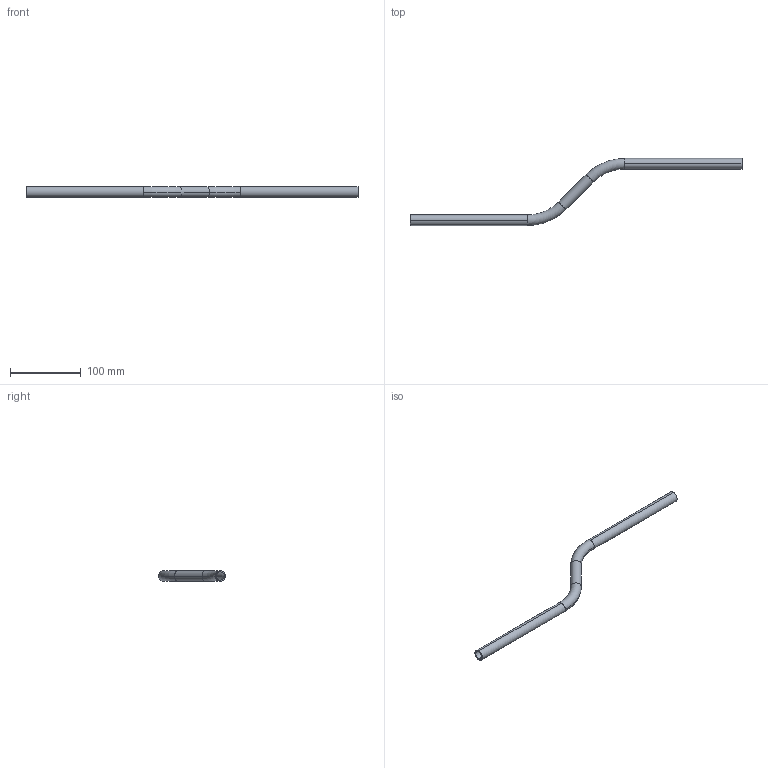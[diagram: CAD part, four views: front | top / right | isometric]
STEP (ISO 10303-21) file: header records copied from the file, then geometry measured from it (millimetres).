
FILE_DESCRIPTION (( 'STEP AP203' ), '1' );
FILE_NAME ('059.015.103.STEP', '2016-10-19T13:11:22', ( 'Utente' ), ( '' ), 'SwSTEP 2.0', 'SolidWorks 2016', '' );
FILE_SCHEMA (( 'CONFIG_CONTROL_DESIGN' ));
Length unit declared in the file: millimetre
Products named in the file (1): 059.015.103
Bounding box: 470 x 95 x 15 mm (x, y, z)
Volume: 31624.8 mm3; surface area: 42293.6 mm2
Topology: 1 solids, 1 shells, 22 faces, 52 edges, 32 vertices
Faces by surface type: cylinder 12, torus 8, plane 2
Entity records: 733 total; most frequent: DIRECTION 138, CARTESIAN_POINT 107, ORIENTED_EDGE 104, AXIS2_PLACEMENT_3D 63, EDGE_CURVE 52, CIRCLE 40, VERTEX_POINT 32, EDGE_LOOP 24
